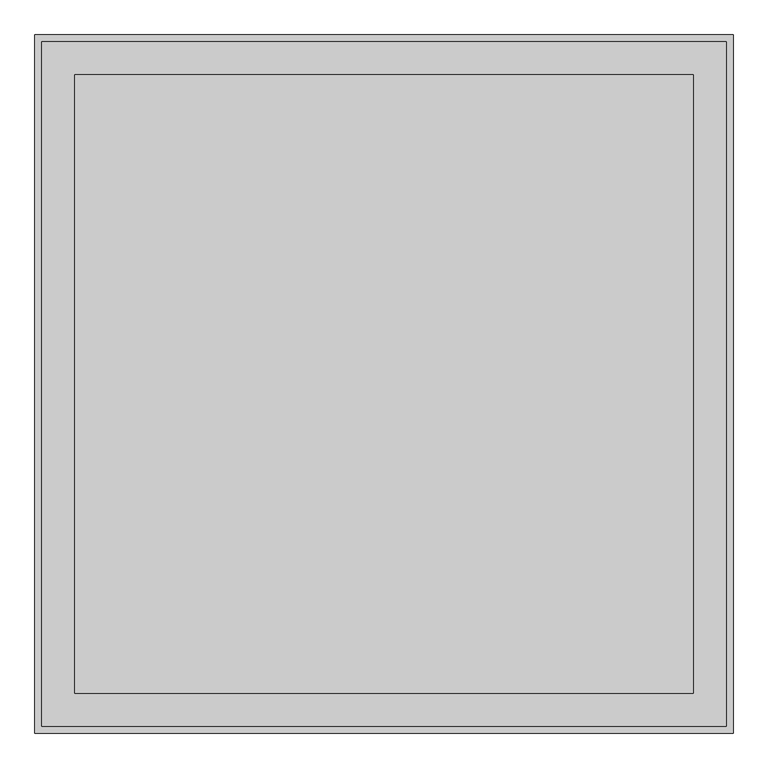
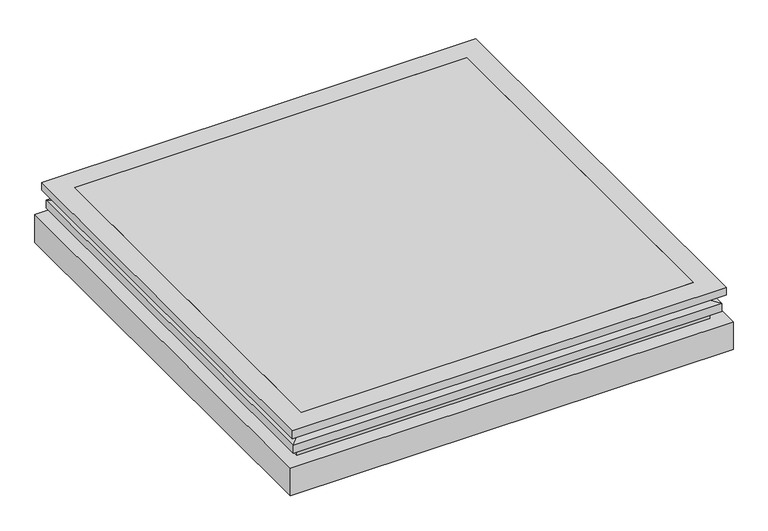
"""IFC4 building model written with IfcOpenShell, lengths in millimetres: proxy geometry, TRP_CP_ARC_FI_OR : AL_VE_150_150."""

from ifc_helpers import new_model, si_unit, frame, origin, place, context, project, spatial, polyline, outline, extrude, faceted_brep, source, transform, mapped, element, save


def generic_models_d191a40d(model_context):
    return source(origin(), model_context, "Body", "SolidModel", [
        extrude(outline(polyline([(664.5, -664.5), (-664.5, -664.5), (-664.5, 664.5), (664.5, 664.5), (664.5, -664.5)])), frame((0.0, 0.0, 4352.4), z_axis=(0.0, 0.0, 1.0), x_axis=(1.0, 0.0, 0.0)), (0.0, 0.0, 1.0), 27.6345711),
        extrude(outline(polyline([(735.0, -735.0), (-735.0, -735.0), (-735.0, 735.0), (735.0, 735.0), (735.0, -735.0)]), holes=[polyline([(664.5, 664.5), (-664.5, 664.5), (-664.5, -664.5), (664.5, -664.5), (664.5, 664.5)])]), frame((0.0, 0.0, 4352.4), z_axis=(0.0, 0.0, 1.0), x_axis=(1.0, 0.0, 0.0)), (0.0, 0.0, 1.0), 27.6345711),
        extrude(outline(polyline([(700.0, -700.0), (-700.0, -700.0), (-700.0, 700.0), (700.0, 700.0), (700.0, -700.0)]), holes=[polyline([(664.5, 664.5), (-664.5, 664.5), (-664.5, -664.5), (664.5, -664.5), (664.5, 664.5)])]), frame((0.0, 0.0, 4161.1996506), z_axis=(0.0, 0.0, 1.0), x_axis=(1.0, 0.0, 0.0)), (0.0, 0.0, 1.0), 119.7298732),
        extrude(outline(polyline([(750.0, 750.0), (750.0, -750.0), (-750.0, -750.0), (-750.0, 750.0), (750.0, 750.0)]), holes=[polyline([(700.0, 700.0), (-700.0, 700.0), (-700.0, -700.0), (700.0, -700.0), (700.0, 700.0)])]), frame((0.0, 0.0, 4161.1996506), z_axis=(0.0, 0.0, 1.0), x_axis=(1.0, 0.0, 0.0)), (0.0, 0.0, 1.0), 98.8003494),
        faceted_brep([(700.0, 700.0, 4326.1339362), (700.0, 700.0, 4352.4), (700.0, -700.0, 4352.4), (700.0, -700.0, 4326.1339362), (726.0955794, 726.0955794, 4290.9295239), (726.0955794, 726.0955794, 4319.4705524), (726.0955794, -726.0955794, 4319.4705524), (726.0955794, -726.0955794, 4290.9295239), (700.0, 700.0, 4280.9295239), (700.0, 700.0, 4290.9295239), (700.0, -700.0, 4290.9295239), (700.0, -700.0, 4280.9295239), (664.5, 664.5, 4352.4), (664.5, 664.5, 4280.9295239), (664.5, -664.5, 4280.9295239), (664.5, -664.5, 4352.4), (-700.0, -700.0, 4352.4), (-700.0, -700.0, 4326.1339362), (-726.0955794, -726.0955794, 4319.4705524), (-726.0955794, -726.0955794, 4290.9295239), (-700.0, -700.0, 4290.9295239), (-700.0, -700.0, 4280.9295239), (-664.5, -664.5, 4280.9295239), (-664.5, -664.5, 4352.4), (-700.0, 700.0, 4352.4), (-700.0, 700.0, 4326.1339362), (-726.0955794, 726.0955794, 4319.4705524), (-726.0955794, 726.0955794, 4290.9295239), (-700.0, 700.0, 4290.9295239), (-700.0, 700.0, 4280.9295239), (-664.5, 664.5, 4280.9295239), (-664.5, 664.5, 4352.4)], [[[0, 1, 2, 3]], [[4, 5, 6, 7]], [[8, 9, 10, 11]], [[12, 13, 14, 15]], [[3, 2, 16, 17]], [[7, 6, 18, 19]], [[11, 10, 20, 21]], [[15, 14, 22, 23]], [[17, 16, 24, 25]], [[19, 18, 26, 27]], [[21, 20, 28, 29]], [[23, 22, 30, 31]], [[25, 24, 1, 0]], [[27, 26, 5, 4]], [[7, 19, 27, 4], [9, 28, 20, 10]], [[29, 28, 9, 8]], [[31, 30, 13, 12]], [[1, 24, 16, 2], [15, 23, 31, 12]], [[11, 21, 29, 8], [13, 30, 22, 14]], [[5, 0, 3, 6]], [[6, 3, 17, 18]], [[18, 17, 25, 26]], [[26, 25, 0, 5]]]),
    ])


if __name__ == "__main__":
    model = new_model("IFC4")
    model_context = context("Model", 3, world=origin())
    ifc_project = project(units=[si_unit("LENGTHUNIT", "METRE", prefix="MILLI")], contexts=[model_context])
    site = spatial("IfcSite", under=ifc_project)
    building = spatial("IfcBuilding", under=site)
    placement = place(None, origin())
    generic_models_shape = generic_models_d191a40d(model_context)
    element("IfcBuildingElementProxy", 1, Name="TRP_CP_ARC_FI_OR : AL_VE_150_150", ObjectType="TRP_CP_ARC_FI_OR : AL_VE_150_150", at=placement, inside=building, context=model_context, shape_type="MappedRepresentation", body=[
        mapped(generic_models_shape, transform((0.0, 0.0, 0.0), x_axis=(1.0, 0.0, 0.0), y_axis=(0.0, 1.0, 0.0), z_axis=(0.0, 0.0, 1.0))),
    ])
    save(model, "model.ifc")
